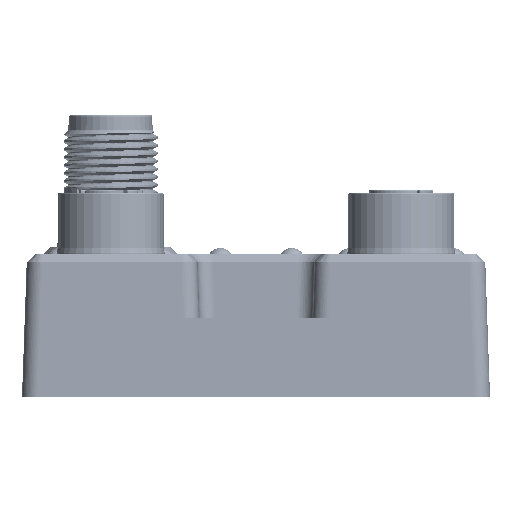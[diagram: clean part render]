
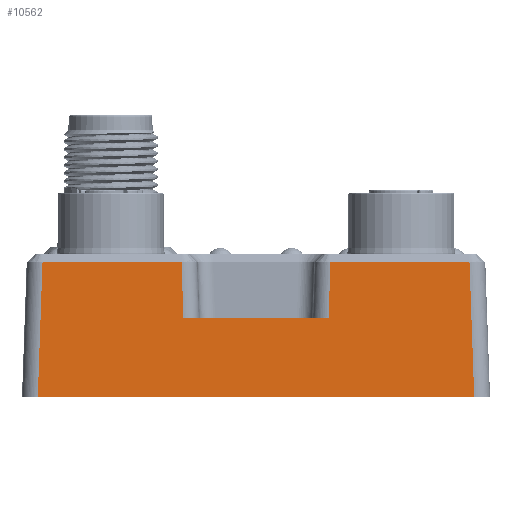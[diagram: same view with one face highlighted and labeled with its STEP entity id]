
A CAD part, front view. The second image highlights one B-rep face of the part: STEP entity #10562.
In plain terms, the highlighted planar face has unit normal (0, -0.999, 0.035).
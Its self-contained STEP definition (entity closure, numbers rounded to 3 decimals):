
#118=DIRECTION('',(0.035,-0.035,-0.999));
#119=VECTOR('',#118,17.021);
#120=CARTESIAN_POINT('',(26.988,-87.987,29.001));
#121=LINE('',#120,#119);
#126=DIRECTION('',(0.035,0.035,0.999));
#127=VECTOR('',#126,17.021);
#128=CARTESIAN_POINT('',(-27.582,-88.581,12.));
#129=LINE('',#128,#127);
#133=DIRECTION('',(0.035,-0.035,-0.999));
#134=VECTOR('',#133,7.109);
#135=CARTESIAN_POINT('',(-9.418,-87.987,29.001));
#136=LINE('',#135,#134);
#140=DIRECTION('',(1.,0.,0.));
#141=VECTOR('',#140,18.34);
#142=CARTESIAN_POINT('',(-9.17,-88.235,21.9));
#143=LINE('',#142,#141);
#147=DIRECTION('',(0.035,0.035,0.999));
#148=VECTOR('',#147,7.109);
#149=CARTESIAN_POINT('',(9.17,-88.235,21.9));
#150=LINE('',#149,#148);
#756=DIRECTION('',(1.,0.,0.));
#757=VECTOR('',#756,55.164);
#758=CARTESIAN_POINT('',(-27.582,-88.581,12.));
#759=LINE('',#758,#757);
#1668=DIRECTION('',(-1.,0.,0.));
#1669=VECTOR('',#1668,17.571);
#1670=CARTESIAN_POINT('',(-9.418,-87.987,
29.001));
#1671=LINE('',#1670,#1669);
#1752=DIRECTION('',(-1.,0.,0.));
#1753=VECTOR('',#1752,17.571);
#1754=CARTESIAN_POINT('',(26.988,-87.987,29.001));
#1755=LINE('',#1754,#1753);
#8999=CARTESIAN_POINT('',(26.988,-87.987,29.001));
#9000=CARTESIAN_POINT('',(27.582,-88.581,12.));
#9001=VERTEX_POINT('',#8999);
#9002=VERTEX_POINT('',#9000);
#9003=CARTESIAN_POINT('',(-27.582,-88.581,
12.));
#9004=VERTEX_POINT('',#9003);
#9005=CARTESIAN_POINT('',(-26.988,-87.987,
29.001));
#9006=VERTEX_POINT('',#9005);
#9007=CARTESIAN_POINT('',(-9.418,-87.987,
29.001));
#9008=VERTEX_POINT('',#9007);
#9009=CARTESIAN_POINT('',(-9.17,-88.235,
21.9));
#9010=VERTEX_POINT('',#9009);
#9011=CARTESIAN_POINT('',(9.17,-88.235,21.9));
#9012=VERTEX_POINT('',#9011);
#9013=CARTESIAN_POINT('',(9.418,-87.987,29.001));
#9014=VERTEX_POINT('',#9013);
#10539=CARTESIAN_POINT('',(-32.2,-89.,0.));
#10540=DIRECTION('',(0.,-0.999,0.035));
#10541=DIRECTION('',(1.,0.,0.));
#10542=AXIS2_PLACEMENT_3D('',#10539,#10540,#10541);
#10543=PLANE('',#10542);
#10545=ORIENTED_EDGE('',*,*,#10544,.T.);
#10547=ORIENTED_EDGE('',*,*,#10546,.F.);
#10549=ORIENTED_EDGE('',*,*,#10548,.T.);
#10551=ORIENTED_EDGE('',*,*,#10550,.F.);
#10553=ORIENTED_EDGE('',*,*,#10552,.T.);
#10555=ORIENTED_EDGE('',*,*,#10554,.T.);
#10557=ORIENTED_EDGE('',*,*,#10556,.T.);
#10559=ORIENTED_EDGE('',*,*,#10558,.F.);
#10560=EDGE_LOOP('',(#10545,#10547,#10549,#10551,#10553,#10555,#10557,#10559));
#10561=FACE_OUTER_BOUND('',#10560,.F.);
#10544=EDGE_CURVE('',#9001,#9002,#121,.T.);
#10546=EDGE_CURVE('',#9004,#9002,#759,.T.);
#10548=EDGE_CURVE('',#9004,#9006,#129,.T.);
#10550=EDGE_CURVE('',#9008,#9006,#1671,.T.);
#10552=EDGE_CURVE('',#9008,#9010,#136,.T.);
#10554=EDGE_CURVE('',#9010,#9012,#143,.T.);
#10556=EDGE_CURVE('',#9012,#9014,#150,.T.);
#10558=EDGE_CURVE('',#9001,#9014,#1755,.T.);
#10562=ADVANCED_FACE('',(#10561),#10543,.T.);
